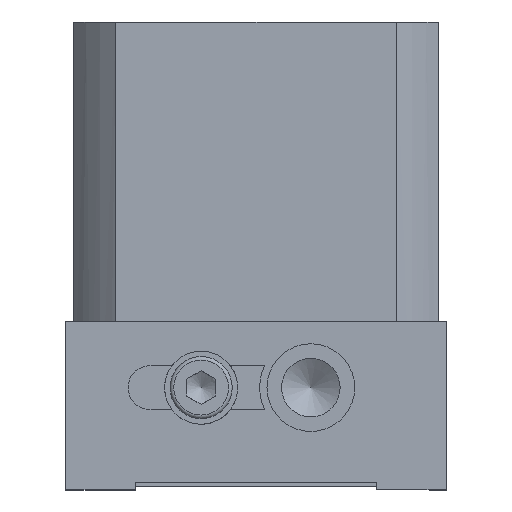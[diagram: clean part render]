
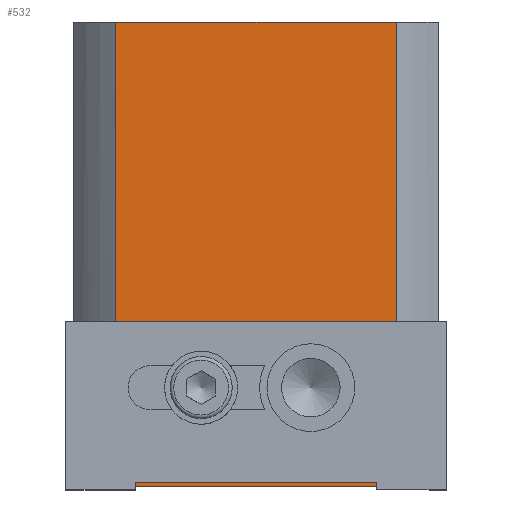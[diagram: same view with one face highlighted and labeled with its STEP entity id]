
A CAD part, left-side view. The second image highlights one B-rep face of the part: STEP entity #532.
In plain terms, the highlighted planar face has unit normal (-1, 0, 0).
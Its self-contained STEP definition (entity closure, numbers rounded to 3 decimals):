
#471=CARTESIAN_POINT('',(-25.,44.164,0.0));
#472=DIRECTION('',(-1.0,0.0,0.0));
#473=DIRECTION('',(0.0,0.0,1.0));
#474=AXIS2_PLACEMENT_3D('',#471,#472,#473);
#475=PLANE('',#474);
#476=CARTESIAN_POINT('',(-25.,5.836,0.0));
#477=VERTEX_POINT('',#476);
#478=CARTESIAN_POINT('',(-25.,5.836,-63.5));
#479=VERTEX_POINT('',#478);
#480=CARTESIAN_POINT('',(-25.,5.836,0.0));
#481=DIRECTION('',(0.0,0.0,-1.0));
#482=VECTOR('',#481,63.5);
#483=LINE('',#480,#482);
#484=EDGE_CURVE('',#477,#479,#483,.T.);
#485=ORIENTED_EDGE('',*,*,#484,.F.);
#486=CARTESIAN_POINT('',(-25.,44.164,0.0));
#487=VERTEX_POINT('',#486);
#488=CARTESIAN_POINT('',(-25.,44.164,0.0));
#489=DIRECTION('',(0.0,-1.0,0.0));
#490=VECTOR('',#489,38.328);
#491=LINE('',#488,#490);
#492=EDGE_CURVE('',#487,#477,#491,.T.);
#493=ORIENTED_EDGE('',*,*,#492,.F.);
#494=CARTESIAN_POINT('',(-25.,44.164,-63.5));
#495=VERTEX_POINT('',#494);
#496=CARTESIAN_POINT('',(-25.,44.164,0.0));
#497=DIRECTION('',(0.0,0.0,-1.0));
#498=VECTOR('',#497,63.5);
#499=LINE('',#496,#498);
#500=EDGE_CURVE('',#487,#495,#499,.T.);
#501=ORIENTED_EDGE('',*,*,#500,.T.);
#502=CARTESIAN_POINT('',(-25.,44.164,-63.5));
#503=DIRECTION('',(0.0,-1.0,0.0));
#504=VECTOR('',#503,38.328);
#505=LINE('',#502,#504);
#506=EDGE_CURVE('',#495,#479,#505,.T.);
#507=ORIENTED_EDGE('',*,*,#506,.T.);
#508=EDGE_LOOP('',(#485,#493,#501,#507));
#509=FACE_OUTER_BOUND('',#508,.T.);
#510=CARTESIAN_POINT('',(-25.,32.5,-44.0));
#511=VERTEX_POINT('',#510);
#512=CARTESIAN_POINT('',(-25.,32.5,-50.0));
#513=DIRECTION('',(-1.0,0.0,0.0));
#514=DIRECTION('',(0.0,1.0,0.0));
#515=AXIS2_PLACEMENT_3D('',#512,#513,#514);
#516=CIRCLE('',#515,6.);
#517=EDGE_CURVE('',#511,#511,#516,.T.);
#518=ORIENTED_EDGE('',*,*,#517,.F.);
#519=EDGE_LOOP('',(#518));
#520=FACE_BOUND('',#519,.T.);
#521=CARTESIAN_POINT('',(-25.,17.5,-44.0));
#522=VERTEX_POINT('',#521);
#523=CARTESIAN_POINT('',(-25.,17.5,-50.0));
#524=DIRECTION('',(-1.0,0.0,0.0));
#525=DIRECTION('',(0.0,-1.0,0.0));
#526=AXIS2_PLACEMENT_3D('',#523,#524,#525);
#527=CIRCLE('',#526,6.);
#528=EDGE_CURVE('',#522,#522,#527,.T.);
#529=ORIENTED_EDGE('',*,*,#528,.F.);
#530=EDGE_LOOP('',(#529));
#531=FACE_BOUND('',#530,.T.);
#532=ADVANCED_FACE('',(#509,#520,#531),#475,.T.);
